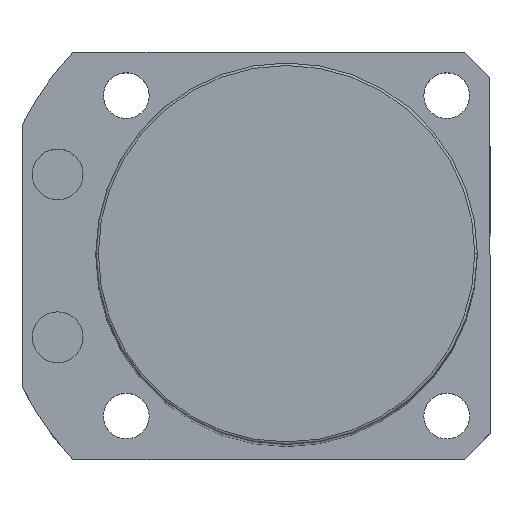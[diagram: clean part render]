
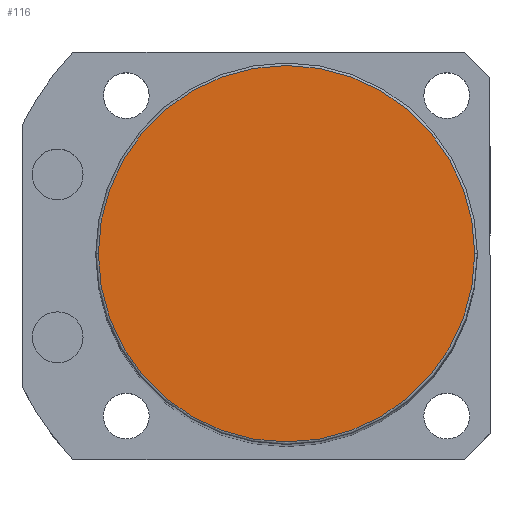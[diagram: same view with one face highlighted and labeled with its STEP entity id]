
A CAD part, top view. The second image highlights one B-rep face of the part: STEP entity #116.
In plain terms, the highlighted planar face has unit normal (0, 0, 1).
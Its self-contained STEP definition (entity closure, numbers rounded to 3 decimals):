
#51 = DIRECTION ( 'NONE',  ( 0., 0., 1. ) ) ;
#94 = DIRECTION ( 'NONE',  ( 0., 0., 1. ) ) ;
#116 = ADVANCED_FACE ( 'NONE', ( #3726 ), #4637, .T. ) ;
#787 = DIRECTION ( 'NONE',  ( 1., 0., 0. ) ) ;
#1048 = CIRCLE ( 'NONE', #3406, 37. ) ;
#1130 = CARTESIAN_POINT ( 'NONE',  ( 0., 0., 255.5 ) ) ;
#1408 = EDGE_LOOP ( 'NONE', ( #2137, #3668 ) ) ;
#2137 = ORIENTED_EDGE ( 'NONE', *, *, #2951, .T. ) ;
#2951 = EDGE_CURVE ( 'NONE', #3435, #3174, #3938, .T. ) ;
#3174 = VERTEX_POINT ( 'NONE', #3986 ) ;
#3232 = AXIS2_PLACEMENT_3D ( 'NONE', #6204, #51, #5148 ) ;
#3274 = CARTESIAN_POINT ( 'NONE',  ( 0., 0., 255.5 ) ) ;
#3406 = AXIS2_PLACEMENT_3D ( 'NONE', #1130, #94, #3664 ) ;
#3435 = VERTEX_POINT ( 'NONE', #6162 ) ;
#3664 = DIRECTION ( 'NONE',  ( 1., 0., 0. ) ) ;
#3668 = ORIENTED_EDGE ( 'NONE', *, *, #5223, .T. ) ;
#3726 = FACE_OUTER_BOUND ( 'NONE', #1408, .T. ) ;
#3938 = CIRCLE ( 'NONE', #5198, 37. ) ;
#3986 = CARTESIAN_POINT ( 'NONE',  ( -37., 0., 255.5 ) ) ;
#4637 = PLANE ( 'NONE',  #3232 ) ;
#4791 = DIRECTION ( 'NONE',  ( 0., 0., 1. ) ) ;
#5148 = DIRECTION ( 'NONE',  ( 1., 0., 0. ) ) ;
#5198 = AXIS2_PLACEMENT_3D ( 'NONE', #3274, #4791, #787 ) ;
#5223 = EDGE_CURVE ( 'NONE', #3174, #3435, #1048, .T. ) ;
#6162 = CARTESIAN_POINT ( 'NONE',  ( 37., 0., 255.5 ) ) ;
#6204 = CARTESIAN_POINT ( 'NONE',  ( 0., 0., 255.5 ) ) ;
